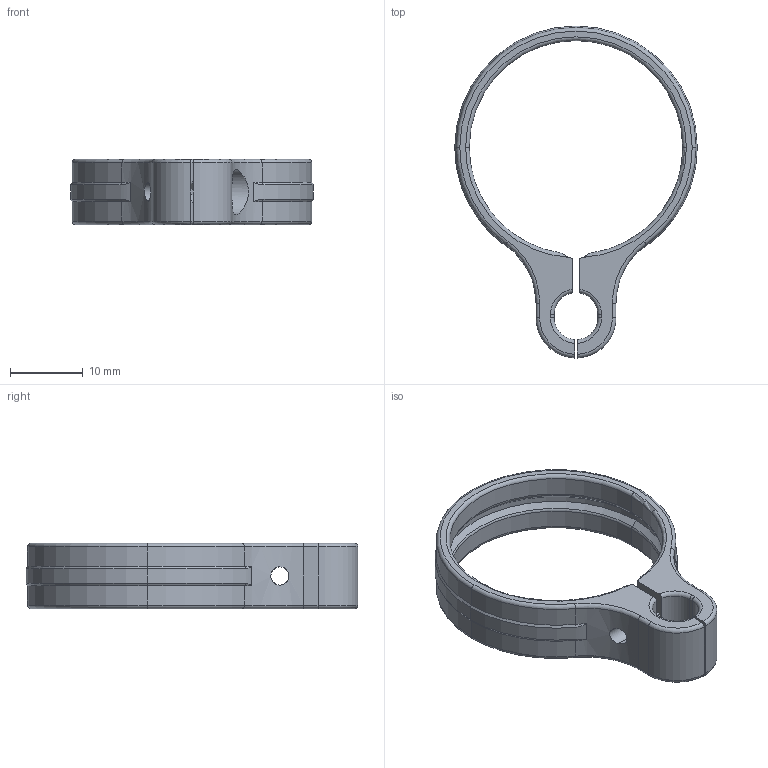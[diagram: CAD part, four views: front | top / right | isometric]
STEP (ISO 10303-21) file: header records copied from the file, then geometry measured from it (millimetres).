
FILE_DESCRIPTION (( 'STEP AP203' ), '1' );
FILE_NAME ('1360444-O.STEP', '2025-09-24T12:17:00', ( 'Chris' ), ( 'Big Sky CNC' ), 'SwSTEP 2.0', 'SolidWorks 2012', '' );
FILE_SCHEMA (( 'CONFIG_CONTROL_DESIGN' ));
Length unit declared in the file: millimetre
Products named in the file (1): 1360444-O
Bounding box: 33.4 x 45.7 x 9 mm (x, y, z)
Volume: 2275.2 mm3; surface area: 2846.9 mm2
Topology: 1 solids, 1 shells, 117 faces, 282 edges, 168 vertices
Faces by surface type: cylinder 48, torus 34, cone 16, plane 11, bspline 8
Entity records: 3775 total; most frequent: CARTESIAN_POINT 996, DIRECTION 592, ORIENTED_EDGE 564, EDGE_CURVE 282, AXIS2_PLACEMENT_3D 252, VERTEX_POINT 168, CIRCLE 142, EDGE_LOOP 122
